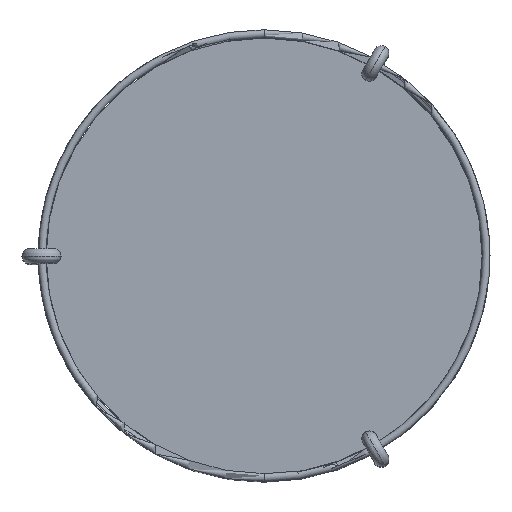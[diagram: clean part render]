
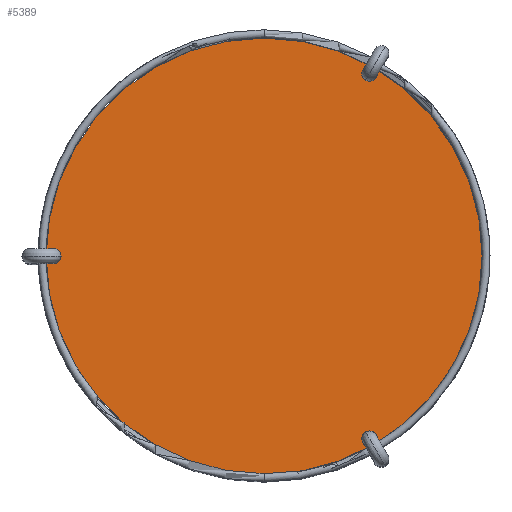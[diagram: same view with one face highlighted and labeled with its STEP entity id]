
A CAD part, top view. The second image highlights one B-rep face of the part: STEP entity #5389.
In plain terms, the highlighted planar face has unit normal (0, 0, 1).
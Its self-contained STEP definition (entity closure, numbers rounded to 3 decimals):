
#358=FACE_BOUND('',#1341,.T.);
#359=FACE_BOUND('',#1342,.T.);
#360=FACE_BOUND('',#1343,.T.);
#497=PLANE('',#5974);
#964=FACE_OUTER_BOUND('',#1340,.T.);
#1340=EDGE_LOOP('',(#4842,#4843));
#1341=EDGE_LOOP('',(#4844,#4845));
#1342=EDGE_LOOP('',(#4846,#4847));
#1343=EDGE_LOOP('',(#4848,#4849));
#1625=CIRCLE('',#5964,2.5);
#1627=CIRCLE('',#5967,2.5);
#1629=CIRCLE('',#5970,2.5);
#1630=CIRCLE('',#5972,145.);
#1632=CIRCLE('',#5975,145.);
#1633=CIRCLE('',#5976,2.5);
#1634=CIRCLE('',#5977,2.5);
#1635=CIRCLE('',#5978,2.5);
#2626=VERTEX_POINT('',#12368);
#2628=VERTEX_POINT('',#12372);
#2630=VERTEX_POINT('',#12377);
#2632=VERTEX_POINT('',#12381);
#2634=VERTEX_POINT('',#12386);
#2636=VERTEX_POINT('',#12390);
#2637=VERTEX_POINT('',#12394);
#2638=VERTEX_POINT('',#12395);
#3373=EDGE_CURVE('',#2626,#2628,#1625,.T.);
#3377=EDGE_CURVE('',#2630,#2632,#1627,.T.);
#3381=EDGE_CURVE('',#2634,#2636,#1629,.T.);
#3382=EDGE_CURVE('',#2637,#2638,#1630,.T.);
#3386=EDGE_CURVE('',#2637,#2638,#1632,.T.);
#3387=EDGE_CURVE('',#2634,#2636,#1633,.T.);
#3388=EDGE_CURVE('',#2630,#2632,#1634,.T.);
#3389=EDGE_CURVE('',#2626,#2628,#1635,.T.);
#4842=ORIENTED_EDGE('',*,*,#3382,.T.);
#4843=ORIENTED_EDGE('',*,*,#3386,.F.);
#4844=ORIENTED_EDGE('',*,*,#3387,.F.);
#4845=ORIENTED_EDGE('',*,*,#3381,.T.);
#4846=ORIENTED_EDGE('',*,*,#3388,.F.);
#4847=ORIENTED_EDGE('',*,*,#3377,.T.);
#4848=ORIENTED_EDGE('',*,*,#3389,.F.);
#4849=ORIENTED_EDGE('',*,*,#3373,.T.);
#5389=ADVANCED_FACE('',(#964,#358,#359,#360),#497,.T.);
#5964=AXIS2_PLACEMENT_3D('',#12374,#7301,#7302);
#5967=AXIS2_PLACEMENT_3D('',#12383,#7309,#7310);
#5970=AXIS2_PLACEMENT_3D('',#12392,#7317,#7318);
#5972=AXIS2_PLACEMENT_3D('',#12396,#7321,#7322);
#5974=AXIS2_PLACEMENT_3D('',#12402,#7327,#7328);
#5975=AXIS2_PLACEMENT_3D('',#12403,#7329,#7330);
#5976=AXIS2_PLACEMENT_3D('',#12404,#7331,#7332);
#5977=AXIS2_PLACEMENT_3D('',#12405,#7333,#7334);
#5978=AXIS2_PLACEMENT_3D('',#12406,#7335,#7336);
#7301=DIRECTION('center_axis',(0.,0.,-1.));
#7302=DIRECTION('ref_axis',(-1.,0.,0.));
#7309=DIRECTION('center_axis',(0.,0.,-1.));
#7310=DIRECTION('ref_axis',(-1.,0.,0.));
#7317=DIRECTION('center_axis',(0.,0.,-1.));
#7318=DIRECTION('ref_axis',(-1.,0.,0.));
#7321=DIRECTION('center_axis',(0.,0.,1.));
#7322=DIRECTION('ref_axis',(0.,1.,0.));
#7327=DIRECTION('center_axis',(0.,0.,1.));
#7328=DIRECTION('ref_axis',(0.,-1.,0.));
#7329=DIRECTION('center_axis',(0.,0.,-1.));
#7330=DIRECTION('ref_axis',(0.,-1.,0.));
#7331=DIRECTION('center_axis',(0.,0.,1.));
#7332=DIRECTION('ref_axis',(1.,0.,0.));
#7333=DIRECTION('center_axis',(0.,0.,1.));
#7334=DIRECTION('ref_axis',(1.,0.,0.));
#7335=DIRECTION('center_axis',(0.,0.,1.));
#7336=DIRECTION('ref_axis',(1.,0.,0.));
#12368=CARTESIAN_POINT('',(67.5,-121.244,419.));
#12372=CARTESIAN_POINT('',(72.5,-121.244,419.));
#12374=CARTESIAN_POINT('Origin',(70.,-121.244,419.));
#12377=CARTESIAN_POINT('',(-142.5,0.,419.));
#12381=CARTESIAN_POINT('',(-137.5,0.,419.));
#12383=CARTESIAN_POINT('Origin',(-140.,0.,419.));
#12386=CARTESIAN_POINT('',(67.5,121.244,419.));
#12390=CARTESIAN_POINT('',(72.5,121.244,419.));
#12392=CARTESIAN_POINT('Origin',(70.,121.244,419.));
#12394=CARTESIAN_POINT('',(145.,0.,419.));
#12395=CARTESIAN_POINT('',(-145.,0.,419.));
#12396=CARTESIAN_POINT('Origin',(0.,0.,
419.));
#12402=CARTESIAN_POINT('Origin',(-145.01,0.,419.));
#12403=CARTESIAN_POINT('Origin',(0.,0.,
419.));
#12404=CARTESIAN_POINT('Origin',(70.,121.244,419.));
#12405=CARTESIAN_POINT('Origin',(-140.,0.,419.));
#12406=CARTESIAN_POINT('Origin',(70.,-121.244,419.));
